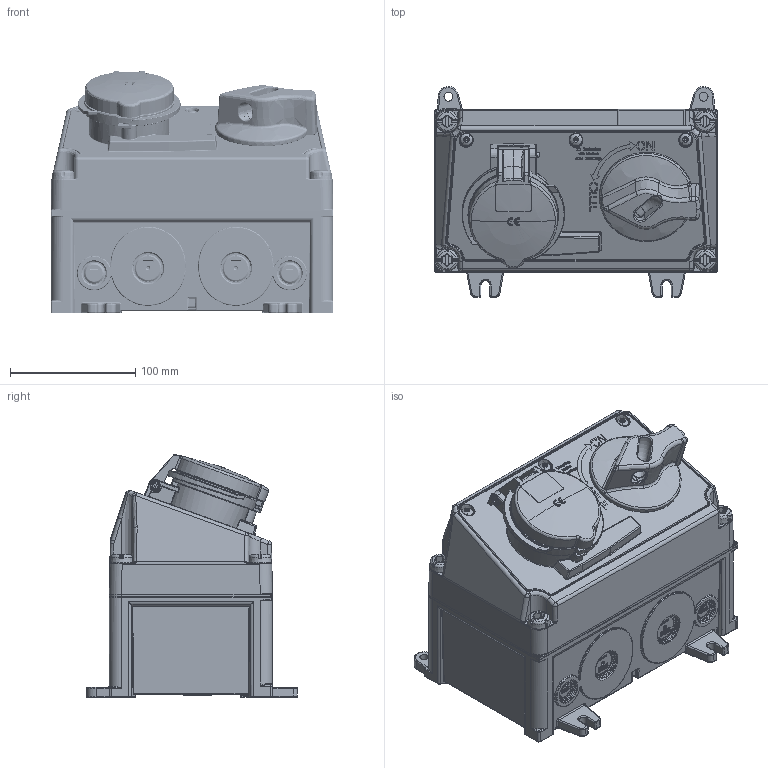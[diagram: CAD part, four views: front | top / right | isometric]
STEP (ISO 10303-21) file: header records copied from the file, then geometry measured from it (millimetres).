
FILE_DESCRIPTION((''),'2;1');
FILE_NAME('7612-0_ASM','2018-06-07T',('menccconvadm'),('MENNEKES'),'PRO/ENGINEER BY PARAMETRIC TECHNOLOGY CORPORATION, 2015440','PRO/ENGINEER BY PARAMETRIC TECHNOLOGY CORPORATION, 2015440','');
FILE_SCHEMA(('AUTOMOTIVE_DESIGN { 1 0 10303 214 1 1 1 1 }'));
Products named in the file (22): 1-4_SW_O_GRAU; PLATZHALTER_GKS2; PLATZHALTER_GKS3; PLATZHALTER_GKS4; PLATZHALTER_GKS5; PLATZHALTER_GKS6; PLATZHALTER_GKS7; PLATZHALTER_GKS8; PLATZHALTER_GKS9; PLATZHALTER_GKS10; PLATZHALTER_GKS11; PLATZHALTER_GKS12; PLATZHALTER_GKS13; PLATZHALTER_GKS14; PLATZHALTER_GKS15; PLATZHALTER_GKS16; PLATZHALTER_GKS17; PLATZHALTER_GKS18; PLATZHALTER_GKS19; PLATZHALTER_GKS20; MP_DUO_32_3_44_BLAU_GRAU; 7612-0_ASM
Assembly tree (21 placements, depth 2):
  7612-0_ASM
    1-4_SW_O_GRAU
    PLATZHALTER_GKS2
    PLATZHALTER_GKS3
    PLATZHALTER_GKS4
    PLATZHALTER_GKS5
    PLATZHALTER_GKS6
    PLATZHALTER_GKS7
    PLATZHALTER_GKS8
    PLATZHALTER_GKS9
    PLATZHALTER_GKS10
    PLATZHALTER_GKS11
    PLATZHALTER_GKS12
    PLATZHALTER_GKS13
    PLATZHALTER_GKS14
    PLATZHALTER_GKS15
    PLATZHALTER_GKS16
    PLATZHALTER_GKS17
    PLATZHALTER_GKS18
    PLATZHALTER_GKS19
    PLATZHALTER_GKS20
    MP_DUO_32_3_44_BLAU_GRAU
Bounding box: 225 x 168.2 x 193.41 mm (x, y, z)
Volume: 2947989.3 mm3; surface area: 356115.1 mm2
Topology: 2 solids, 2 shells, 6148 faces, 15833 edges, 9891 vertices
Faces by surface type: plane 3285, cylinder 1101, bspline 907, torus 510, cone 176, sphere 157, extrusion 12
Entity records: 301745 total; most frequent: CARTESIAN_POINT 94817, ORIENTED_EDGE 31646, DIRECTION 26976, EDGE_CURVE 15823, PRESENTATION_STYLE_ASSIGNMENT 11908, VERTEX_POINT 9889, VECTOR 9840, LINE 9828
